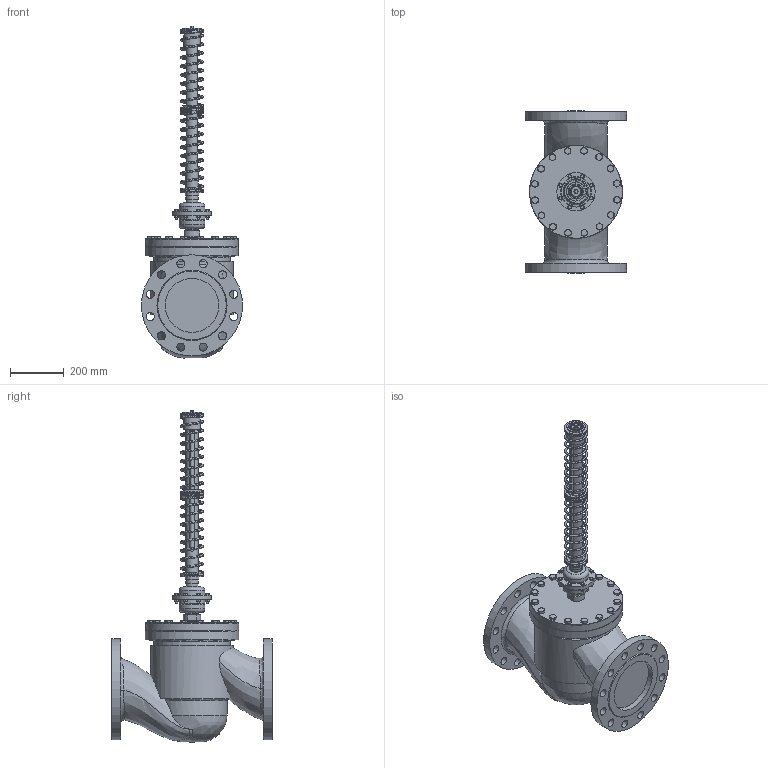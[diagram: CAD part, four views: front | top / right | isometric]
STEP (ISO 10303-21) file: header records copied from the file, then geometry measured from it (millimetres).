
FILE_DESCRIPTION(/* description */ (''),/* implementation_level */ '2;1');
FILE_NAME(/* name */ 'G:\Работа\library\3d база\Клапаны КПСР3d\Клапаны КПСР3d\3. На проверке\RA на проверку\РА Ду 200_1.stp',/* time_stamp */ '2017-07-26T15:29:06+03:00',/* author */ ('User'),/* organization */ ('unknown'),/* preprocessor_version */ 'ST-DEVELOPER v16.13',/* originating_system */ 'Autodesk Inventor 2018',/* authorisation */ '');
FILE_SCHEMA (('AUTOMOTIVE_DESIGN { 1 0 10303 214 3 1 1 }'));
Length unit declared in the file: millimetre
Products named in the file (1): РА Ду 200_1
Bounding box: 375 x 600 x 1230.5 mm (x, y, z)
Volume: 46162379.2 mm3; surface area: 1816423.8 mm2
Topology: 1 solids, 14 shells, 819 faces, 2024 edges, 1330 vertices
Faces by surface type: plane 365, cone 199, cylinder 176, bspline 43, torus 36
Full cylindrical faces by diameter (mm): 2 x1, 8 x16, 9 x8, 12 x1, 16 x37, 18 x16, 20 x2, 22 x2, 23 x1, 23.6 x1, 30 x24, 32 x1, 35 x1, 38 x3, 39 x1, 40 x3, 42.7 x1, 44 x1, 45 x1, 46 x1, 47 x2, 48 x2, 48.7 x1, 49 x1, 50 x1, 52 x1, 54.2 x1, 62 x2, 68 x1, 70 x4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
Entity records: 43297 total; most frequent: CARTESIAN_POINT 26424, DIRECTION 3246, ORIENTED_EDGE 3178, EDGE_CURVE 1588, AXIS2_PLACEMENT_3D 1377, EDGE_LOOP 1333, VERTEX_POINT 1188, FACE_OUTER_BOUND 819
